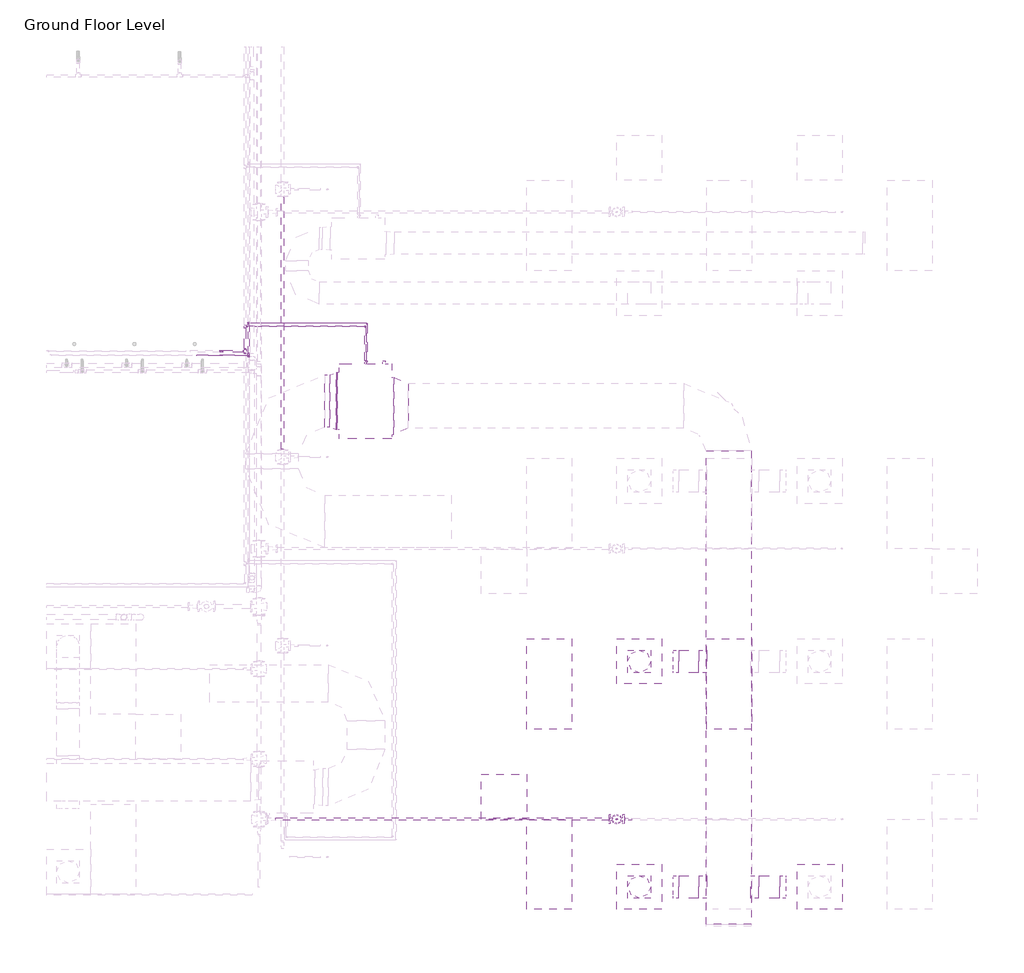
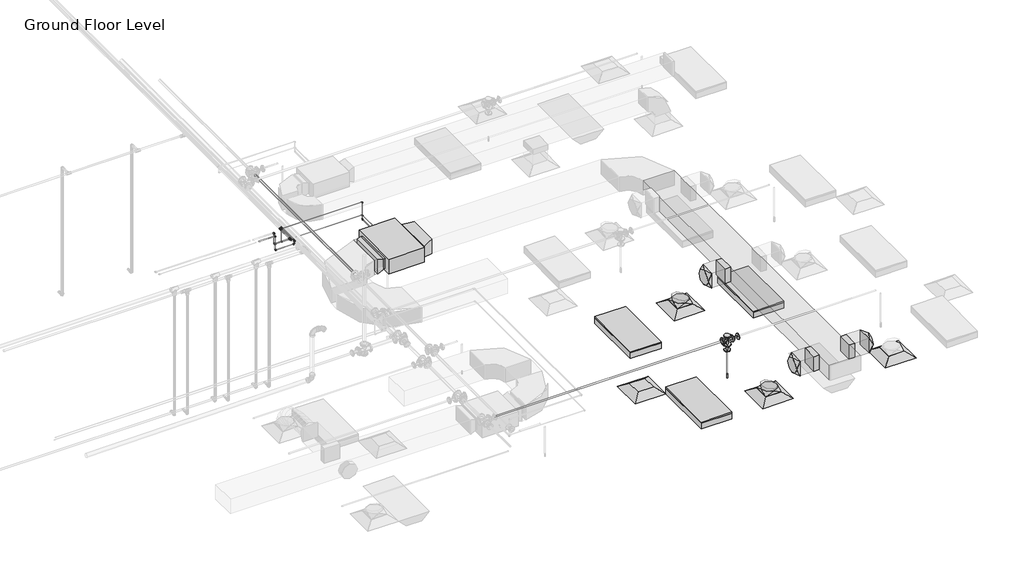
# One storey, part 18 of 74: 22 pipe fittings, 17 pipe segments, 10 duct fittings, 8 duct segments, 4 air terminals, 3 light fixtures, 1 fire suppression terminal, 1 proxy.
"""IFC4 building model written with IfcOpenShell, lengths in millimetres."""

from ifc_helpers import new_model, si_unit, point, frame, frame_2d, origin, place, context, project, spatial, polyline, circle_curve, ellipse_curve, trimmed, segment, composite_curve, outline, extrude, transform, mapped, element, save
from ifc_brep_helpers import plane_surface, cylinder_surface, advanced_brep
from components import m_return_diffuser_600_x_600_face_300_x_300_connection_ff221211, fcu_daikin_iu_7e1df382, m_rectangular_takeoff_standard_cb0ccb98, m_rectangular_takeoff_standard_2be5eba1, m_rectangular_transition_angle_45_degree_93a96896, m_rectangular_transition_angle_45_degree_f6cc18ae, m_rectangular_to_round_transition_angle_45_degree_641efff0, m_sprinkler_dry_pendent_hosted_15_mm_dry_pendent_9bda8e11, m_troffer_light_parabolic_rectangular1_0600x1200mm_4_lamp_86473d4a, m_elbow_generic_standard_a088f956, m_elbow_generic_standard_2a704253, m_elbow_generic_standard_73005802, m_elbow_generic_standard_bb5ffebe, m_reducer_flanged_cs_class_150_standard_ccf252ad, m_tee_generic_standard_5b2ed4d4, m_tee_generic_standard_cdc1cff5, m_tee_generic_standard_5078887e, m_tee_generic_standard_bbfc025c, m_tee_round_base_flanged_cs_class_150_standard_7e5987a1, m_transition_generic_standard_6dc712c0, m_transition_generic_standard_2351da66, m_transition_generic_standard_44e35838, m_transition_generic_standard_22c7c9f4, m_transition_generic_standard_2d362458

model = new_model("IFC4")

# Units and contexts
model_context = context("Model", 3, world=origin())
ifc_project = project(units=[si_unit("LENGTHUNIT", "METRE", prefix="MILLI")], contexts=[model_context])

# Site, building, storey
site = spatial("IfcSite", under=ifc_project)
building = spatial("IfcBuilding", under=site)
storey = spatial("IfcBuildingStorey", under=building, Name="Ground Floor Level", Elevation=900.0)

# Air terminals
placement = place(None, origin())
m_return_diffuser_600_x_600_face_300_x_300_connection_shape = m_return_diffuser_600_x_600_face_300_x_300_connection_ff221211(model_context)
element("IfcAirTerminal", 1, ObjectType="M_Return Diffuser : 600 x 600 Face 300 x 300 Connection", at=placement, inside=storey, context=model_context, shape_type="MappedRepresentation", body=[
    mapped(m_return_diffuser_600_x_600_face_300_x_300_connection_shape, transform((8943.0482736, -38564.7846466, 3650.0), x_axis=(1.0, 0.0, 0.0), y_axis=(0.0, 1.0, 0.0), z_axis=(0.0, 0.0, 1.0))),
])
element("IfcAirTerminal", 2, ObjectType="M_Supply Diffuser : 600 x 600 Face 300 x 300 Connection", at=placement, inside=storey, context=model_context, shape_type="MappedRepresentation", body=[
    mapped(m_return_diffuser_600_x_600_face_300_x_300_connection_shape, transform((10742.7672395, -39764.7846466, 3650.0), x_axis=(1.0, 0.0, 0.0), y_axis=(0.0, 1.0, 0.0), z_axis=(0.0, 0.0, 1.0))),
])
element("IfcAirTerminal", 3, ObjectType="M_Supply Diffuser : 600 x 600 Face 300 x 300 Connection", at=placement, inside=storey, context=model_context, shape_type="MappedRepresentation", body=[
    mapped(m_return_diffuser_600_x_600_face_300_x_300_connection_shape, transform((13142.7672395, -39764.7846466, 3650.0), x_axis=(1.0, 0.0, 0.0), y_axis=(0.0, 1.0, 0.0), z_axis=(0.0, 0.0, 1.0))),
])
element("IfcAirTerminal", 4, ObjectType="M_Supply Diffuser : 600 x 600 Face 300 x 300 Connection", at=placement, inside=storey, context=model_context, shape_type="MappedRepresentation", body=[
    mapped(m_return_diffuser_600_x_600_face_300_x_300_connection_shape, transform((10742.7672395, -36764.7846466, 3650.0), x_axis=(1.0, 0.0, 0.0), y_axis=(0.0, 1.0, 0.0), z_axis=(0.0, 0.0, 1.0))),
])

# Proxy
fcu_daikin_iu_shape = fcu_daikin_iu_7e1df382(model_context)
element("IfcBuildingElementProxy", 5, Name="FCU-DAIKIN IU : 7.2kW, 230V/50Hz/1Ph", ObjectType="FCU-DAIKIN IU : 7.2kW, 230V/50Hz/1Ph", at=placement, inside=storey, context=model_context, shape_type="MappedRepresentation", body=[
    mapped(fcu_daikin_iu_shape, transform((7098.4644074, -33301.2726336, 3934.0875), x_axis=(0.0, 1.0, 0.0), y_axis=(-1.0, 0.0, 0.0), z_axis=(0.0, 0.0, 1.0))),
])

# Duct fittings
m_rectangular_takeoff_standard_shape = m_rectangular_takeoff_standard_cb0ccb98(model_context)
element("IfcDuctFitting", 6, ObjectType="M_Rectangular Takeoff : Standard", at=placement, inside=storey, context=model_context, shape_type="MappedRepresentation", body=[
    mapped(m_rectangular_takeoff_standard_shape, transform((12233.8644074, -39764.7846466, 4099.9875), x_axis=(1.0, 0.0, 0.0), y_axis=(0.0, -1.0, 0.0), z_axis=(0.0, 0.0, -1.0))),
])
m_rectangular_takeoff_standard_2_shape = m_rectangular_takeoff_standard_2be5eba1(model_context)
element("IfcDuctFitting", 7, ObjectType="M_Rectangular Takeoff : Standard", at=placement, inside=storey, context=model_context, shape_type="MappedRepresentation", body=[
    mapped(m_rectangular_takeoff_standard_2_shape, transform((11633.8644074, -36764.7846466, 4099.9875), x_axis=(-1.0, 0.0, 0.0), y_axis=(0.0, 1.0, 0.0), z_axis=(0.0, 0.0, -1.0))),
])
element("IfcDuctFitting", 8, ObjectType="M_Rectangular Takeoff : Standard", at=placement, inside=storey, context=model_context, shape_type="MappedRepresentation", body=[
    mapped(m_rectangular_takeoff_standard_2_shape, transform((11633.8644074, -39764.7846466, 4099.9875), x_axis=(-1.0, 0.0, 0.0), y_axis=(0.0, 1.0, 0.0), z_axis=(0.0, 0.0, -1.0))),
])
m_rectangular_transition_angle_45_degree_shape = m_rectangular_transition_angle_45_degree_93a96896(model_context)
element("IfcDuctFitting", 9, ObjectType="M_Rectangular Transition - Angle : 45 Degree", at=placement, inside=storey, context=model_context, shape_type="MappedRepresentation", body=[
    mapped(m_rectangular_transition_angle_45_degree_shape, transform((7473.8644074, -33364.7726336, 4100.0), x_axis=(1.0, 0.0, 0.0), y_axis=(0.0, 1.0, 0.0), z_axis=(0.0, 0.0, 1.0))),
])
m_rectangular_transition_angle_45_degree_2_shape = m_rectangular_transition_angle_45_degree_f6cc18ae(model_context)
element("IfcDuctFitting", 10, ObjectType="M_Rectangular Transition - Angle : 45 Degree", at=placement, inside=storey, context=model_context, shape_type="MappedRepresentation", body=[
    mapped(m_rectangular_transition_angle_45_degree_2_shape, transform((6711.4162578, -33301.2726336, 4075.2908943), x_axis=(-0.9999999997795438, 0.0, 2.0997916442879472e-05), y_axis=(0.0, -1.0, 0.0), z_axis=(2.0997916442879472e-05, 0.0, 0.9999999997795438))),
])
m_rectangular_to_round_transition_angle_45_degree_shape = m_rectangular_to_round_transition_angle_45_degree_641efff0(model_context)
element("IfcDuctFitting", 11, ObjectType="M_Rectangular to Round Transition - Angle : 45 Degree", at=placement, inside=storey, context=model_context, shape_type="MappedRepresentation", body=[
    mapped(m_rectangular_to_round_transition_angle_45_degree_shape, transform((10742.7672395, -36764.7846466, 3751.6), x_axis=(0.0, 0.0, 1.0), y_axis=(-1.0, 0.0, 0.0), z_axis=(0.0, -1.0, 0.0))),
])
element("IfcDuctFitting", 12, ObjectType="M_Rectangular to Round Transition - Angle : 45 Degree", at=placement, inside=storey, context=model_context, shape_type="MappedRepresentation", body=[
    mapped(m_rectangular_to_round_transition_angle_45_degree_shape, transform((11270.1156708, -36764.7846466, 4099.9875), x_axis=(-1.0, 0.0, 0.0), y_axis=(0.0, -1.0, 0.0), z_axis=(0.0, 0.0, 1.0))),
])
element("IfcDuctFitting", 13, ObjectType="M_Rectangular to Round Transition - Angle : 45 Degree", at=placement, inside=storey, context=model_context, shape_type="MappedRepresentation", body=[
    mapped(m_rectangular_to_round_transition_angle_45_degree_shape, transform((10742.7672395, -39764.7846466, 3751.6), x_axis=(0.0, 0.0, 1.0), y_axis=(-1.0, 0.0, 0.0), z_axis=(0.0, -1.0, 0.0))),
])
element("IfcDuctFitting", 14, ObjectType="M_Rectangular to Round Transition - Angle : 45 Degree", at=placement, inside=storey, context=model_context, shape_type="MappedRepresentation", body=[
    mapped(m_rectangular_to_round_transition_angle_45_degree_shape, transform((11270.1156708, -39764.7846466, 4099.9875), x_axis=(-1.0, 0.0, 0.0), y_axis=(0.0, -1.0, 0.0), z_axis=(0.0, 0.0, 1.0))),
])
element("IfcDuctFitting", 15, ObjectType="M_Rectangular to Round Transition - Angle : 45 Degree", at=placement, inside=storey, context=model_context, shape_type="MappedRepresentation", body=[
    mapped(m_rectangular_to_round_transition_angle_45_degree_shape, transform((12615.4188082, -39764.7846466, 4099.9875), x_axis=(1.0, 0.0, 0.0), y_axis=(0.0, 1.0, 0.0), z_axis=(0.0, 0.0, 1.0))),
])

# Duct segments
element("IfcDuctSegment", 16, ObjectType="Flex - Round", at=placement, inside=storey, context=model_context, shape_type="AdvancedBrep", body=[
    advanced_brep(
    [(10892.7672395, -36764.7846466, 3826.6), (10742.7672395, -36914.7846466, 3826.6), (10592.7672395, -36764.7846466, 3826.6), (10742.7672395, -36614.7846466, 3826.6), (10892.7672395, -36764.7846466, 3829.8098344), (10742.7672395, -36614.7846466, 3864.5152119), (10592.7672395, -36764.7846466, 3899.2205895), (10742.7672395, -36914.7846466, 3864.5152119)],
    [
        (0, 1, circle_curve(frame((10742.7672395, -36764.7846466, 3826.6), z_axis=(0.0, 0.0, -1.0), x_axis=(1.0, 0.0, 0.0)), 150.0)),
        (1, 2, circle_curve(frame((10742.7672395, -36764.7846466, 3826.6), z_axis=(0.0, 0.0, -1.0), x_axis=(1.0, 0.0, 0.0)), 150.0)),
        (2, 3, circle_curve(frame((10742.7672395, -36764.7846466, 3826.6), z_axis=(0.0, 0.0, -1.0), x_axis=(1.0, 0.0, 0.0)), 150.0)),
        (3, 0, circle_curve(frame((10742.7672395, -36764.7846466, 3826.6), z_axis=(0.0, 0.0, -1.0), x_axis=(1.0, 0.0, 0.0)), 150.0)),
        (4, 5, ellipse_curve(frame((10742.7672395, -36764.7846466, 3864.5152119), z_axis=(0.22541442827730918, 0.0, 0.9742629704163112), x_axis=(0.9742629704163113, 0.0, -0.2254144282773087)), 153.9625384, 150.0)),
        (5, 6, ellipse_curve(frame((10742.7672395, -36764.7846466, 3864.5152119), z_axis=(0.22541442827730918, 0.0, 0.9742629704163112), x_axis=(0.9742629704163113, 0.0, -0.2254144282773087)), 153.9625384, 150.0)),
        (6, 7, ellipse_curve(frame((10742.7672395, -36764.7846466, 3864.5152119), z_axis=(0.22541442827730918, 0.0, 0.9742629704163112), x_axis=(0.9742629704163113, 0.0, -0.2254144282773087)), 153.9625384, 150.0)),
        (7, 4, ellipse_curve(frame((10742.7672395, -36764.7846466, 3864.5152119), z_axis=(0.22541442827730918, 0.0, 0.9742629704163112), x_axis=(0.9742629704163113, 0.0, -0.2254144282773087)), 153.9625384, 150.0)),
        (0, 4),
        (7, 1),
        (6, 2),
        (5, 3),
    ],
    [
        plane_surface(frame((10742.7672395, -36914.7846466, 3826.6), z_axis=(0.0, 0.0, -1.0), x_axis=(1.0, 0.0, 0.0))),
        plane_surface(frame((10742.7672395, -36914.7846466, 3864.5152119), z_axis=(0.22541442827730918, 0.0, 0.9742629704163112), x_axis=(0.9742629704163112, 0.0, -0.22541442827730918))),
        cylinder_surface(frame((10742.7672395, -36764.7846466, 3826.6), z_axis=(0.0, 0.0, -1.0), x_axis=(1.0, 0.0, 0.0)), 150.0),
    ],
    [
        (0, [[1, 2, 3, 4]]),
        (1, [[5, 6, 7, 8]]),
        (2, [[-1, 9, -8, 10]]),
        (2, [[-2, -10, -7, 11]]),
        (2, [[-3, -11, -6, 12]]),
        (2, [[-4, -12, -5, -9]]),
    ],
),
])
element("IfcDuctSegment", 17, ObjectType="Flex - Round", at=placement, inside=storey, context=model_context, shape_type="AdvancedBrep", body=[
    advanced_brep(
    [(10892.7672395, -39764.7846466, 3826.6), (10742.7672395, -39914.7846466, 3826.6), (10592.7672395, -39764.7846466, 3826.6), (10742.7672395, -39614.7846466, 3826.6), (10892.7672395, -39764.7846466, 3829.8098344), (10742.7672395, -39614.7846466, 3864.5152119), (10592.7672395, -39764.7846466, 3899.2205895), (10742.7672395, -39914.7846466, 3864.5152119)],
    [
        (0, 1, circle_curve(frame((10742.7672395, -39764.7846466, 3826.6), z_axis=(0.0, 0.0, -1.0), x_axis=(1.0, 0.0, 0.0)), 150.0)),
        (1, 2, circle_curve(frame((10742.7672395, -39764.7846466, 3826.6), z_axis=(0.0, 0.0, -1.0), x_axis=(1.0, 0.0, 0.0)), 150.0)),
        (2, 3, circle_curve(frame((10742.7672395, -39764.7846466, 3826.6), z_axis=(0.0, 0.0, -1.0), x_axis=(1.0, 0.0, 0.0)), 150.0)),
        (3, 0, circle_curve(frame((10742.7672395, -39764.7846466, 3826.6), z_axis=(0.0, 0.0, -1.0), x_axis=(1.0, 0.0, 0.0)), 150.0)),
        (4, 5, ellipse_curve(frame((10742.7672395, -39764.7846466, 3864.5152119), z_axis=(0.22541442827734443, 0.0, 0.9742629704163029), x_axis=(0.9742629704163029, 0.0, -0.22541442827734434)), 153.9625384, 150.0)),
        (5, 6, ellipse_curve(frame((10742.7672395, -39764.7846466, 3864.5152119), z_axis=(0.22541442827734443, 0.0, 0.9742629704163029), x_axis=(0.9742629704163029, 0.0, -0.22541442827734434)), 153.9625384, 150.0)),
        (6, 7, ellipse_curve(frame((10742.7672395, -39764.7846466, 3864.5152119), z_axis=(0.22541442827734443, 0.0, 0.9742629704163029), x_axis=(0.9742629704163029, 0.0, -0.22541442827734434)), 153.9625384, 150.0)),
        (7, 4, ellipse_curve(frame((10742.7672395, -39764.7846466, 3864.5152119), z_axis=(0.22541442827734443, 0.0, 0.9742629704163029), x_axis=(0.9742629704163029, 0.0, -0.22541442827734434)), 153.9625384, 150.0)),
        (0, 4),
        (7, 1),
        (6, 2),
        (5, 3),
    ],
    [
        plane_surface(frame((10742.7672395, -39914.7846466, 3826.6), z_axis=(0.0, 0.0, -1.0), x_axis=(1.0, 0.0, 0.0))),
        plane_surface(frame((10742.7672395, -39914.7846466, 3864.5152119), z_axis=(0.22541442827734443, 0.0, 0.9742629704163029), x_axis=(0.9742629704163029, 0.0, -0.22541442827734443))),
        cylinder_surface(frame((10742.7672395, -39764.7846466, 3826.6), z_axis=(0.0, 0.0, -1.0), x_axis=(1.0, 0.0, 0.0)), 150.0),
    ],
    [
        (0, [[1, 2, 3, 4]]),
        (1, [[5, 6, 7, 8]]),
        (2, [[-1, 9, -8, 10]]),
        (2, [[-2, -10, -7, 11]]),
        (2, [[-3, -11, -6, 12]]),
        (2, [[-4, -12, -5, -9]]),
    ],
),
])
element("IfcDuctSegment", 18, ObjectType="Radius Elbows / Taps", at=placement, inside=storey, context=model_context, shape_type="SweptSolid", body=[
    extrude(outline(polyline([(11633.8644074, -33964.7726336), (12233.8644074, -33964.7726336), (12233.8644074, -40264.7726336), (11633.8644074, -40264.7726336), (11633.8644074, -33964.7726336)])), frame((0.0, 0.0, 3949.9875), z_axis=(0.0, 0.0, 1.0), x_axis=(1.0, 0.0, 0.0)), (0.0, 0.0, 1.0), 300.0),
])
element("IfcDuctSegment", 19, ObjectType="Radius Elbows / Taps", at=placement, inside=storey, context=model_context, shape_type="SweptSolid", body=[
    extrude(outline(polyline([(11532.2644074, -36614.7846466), (11532.2644074, -36914.7846466), (11270.1156708, -36914.7846466), (11270.1156708, -36614.7846466), (11532.2644074, -36614.7846466)])), frame((0.0, 0.0, 3949.9875), z_axis=(0.0, 0.0, 1.0), x_axis=(1.0, 0.0, 0.0)), (0.0, 0.0, 1.0), 300.0),
])
element("IfcDuctSegment", 20, ObjectType="Radius Elbows / Taps", at=placement, inside=storey, context=model_context, shape_type="SweptSolid", body=[
    extrude(outline(polyline([(11532.2644074, -39614.7846466), (11532.2644074, -39914.7846466), (11270.1156708, -39914.7846466), (11270.1156708, -39614.7846466), (11532.2644074, -39614.7846466)])), frame((0.0, 0.0, 3949.9875), z_axis=(0.0, 0.0, 1.0), x_axis=(1.0, 0.0, 0.0)), (0.0, 0.0, 1.0), 300.0),
])
element("IfcDuctSegment", 21, ObjectType="Radius Elbows / Taps", at=placement, inside=storey, context=model_context, shape_type="SweptSolid", body=[
    extrude(outline(polyline([(12335.4644074, -39914.7846466), (12335.4644074, -39614.7846466), (12615.4188082, -39614.7846466), (12615.4188082, -39914.7846466), (12335.4644074, -39914.7846466)])), frame((0.0, 0.0, 3949.9875), z_axis=(0.0, 0.0, 1.0), x_axis=(1.0, 0.0, 0.0)), (0.0, 0.0, 1.0), 300.0),
])
element("IfcDuctSegment", 22, ObjectType="Radius Elbows / Taps", at=placement, inside=storey, context=model_context, shape_type="SweptSolid", body=[
    extrude(outline(polyline([(0.0, -761.875), (0.0, 0.0), (11.6481501, 0.0), (11.6481501, -761.875), (0.0, -761.875)])), frame((6711.3850343, -32920.3351336, 3968.1408988), z_axis=(0.00029140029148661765, 0.0, 0.9999999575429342), x_axis=(0.9999999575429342, 0.0, -0.00029140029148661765)), (0.0, 0.0, 1.0), 214.3),
])
element("IfcDuctSegment", 23, ObjectType="Radius Elbows / Taps", at=placement, inside=storey, context=model_context, shape_type="SweptSolid", body=[
    extrude(outline(polyline([(6557.7672394, -33651.2726336), (6557.7672394, -32951.2726336), (6625.7187526, -32951.2726336), (6625.7187526, -33651.2726336), (6557.7672394, -33651.2726336)])), frame((0.0, 0.0, 3882.4375), z_axis=(0.0, 0.0, 1.0), x_axis=(1.0, 0.0, 0.0)), (0.0, 0.0, 1.0), 300.0),
])

# Fire suppression terminal
m_sprinkler_dry_pendent_hosted_15_mm_dry_pendent_shape = m_sprinkler_dry_pendent_hosted_15_mm_dry_pendent_9bda8e11(model_context)
element("IfcFireSuppressionTerminal", 24, ObjectType="M_Sprinkler - Dry - Pendent - Hosted : 15 mm Dry Pendent", at=placement, inside=storey, context=model_context, shape_type="MappedRepresentation", body=[
    mapped(m_sprinkler_dry_pendent_hosted_15_mm_dry_pendent_shape, transform((10443.0482736, -38864.7846466, 3650.0), x_axis=(1.0, 0.0, 0.0), y_axis=(0.0, -1.0, 0.0), z_axis=(0.0, 0.0, -1.0))),
])

# Light fixtures
m_troffer_light_parabolic_rectangular1_0600x1200mm_4_lamp_shape = m_troffer_light_parabolic_rectangular1_0600x1200mm_4_lamp_86473d4a(model_context)
element("IfcLightFixture", 25, ObjectType="M_Troffer Light - Parabolic Rectangular1 : 0600x1200mm(4 Lamp) - 277V 2", at=placement, inside=storey, context=model_context, shape_type="MappedRepresentation", body=[
    mapped(m_troffer_light_parabolic_rectangular1_0600x1200mm_4_lamp_shape, transform((9483.5823415, -37046.0811451, 3650.0), x_axis=(0.0, 1.0, 0.0), y_axis=(-1.0, 0.0, 0.0), z_axis=(0.0, 0.0, 1.0))),
])
element("IfcLightFixture", 26, ObjectType="M_Troffer Light - Parabolic Rectangular1 : 0600x1200mm(4 Lamp) - 277V 2", at=placement, inside=storey, context=model_context, shape_type="MappedRepresentation", body=[
    mapped(m_troffer_light_parabolic_rectangular1_0600x1200mm_4_lamp_shape, transform((9483.5823415, -39446.0811451, 3650.0), x_axis=(0.0, 1.0, 0.0), y_axis=(-1.0, 0.0, 0.0), z_axis=(0.0, 0.0, 1.0))),
])
element("IfcLightFixture", 27, ObjectType="M_Troffer Light - Parabolic Rectangular1 : 0600x1200mm(4 Lamp) - 277V 2", at=placement, inside=storey, context=model_context, shape_type="MappedRepresentation", body=[
    mapped(m_troffer_light_parabolic_rectangular1_0600x1200mm_4_lamp_shape, transform((11883.5823415, -37046.0811451, 3650.0), x_axis=(0.0, 1.0, 0.0), y_axis=(-1.0, 0.0, 0.0), z_axis=(0.0, 0.0, 1.0))),
])

# Pipe fittings
m_elbow_generic_standard_shape = m_elbow_generic_standard_a088f956(model_context)
element("IfcPipeFitting", 28, ObjectType="M_Elbow - Generic : Standard", at=placement, inside=storey, context=model_context, shape_type="MappedRepresentation", body=[
    mapped(m_elbow_generic_standard_shape, transform((7098.4644074, -32307.4513653, 4390.0), x_axis=(1.0, 0.0, 0.0), y_axis=(0.0, 0.0, -1.0), z_axis=(0.0, 1.0, 0.0))),
])
element("IfcPipeFitting", 29, ObjectType="M_Elbow - Generic : Standard", at=placement, inside=storey, context=model_context, shape_type="MappedRepresentation", body=[
    mapped(m_elbow_generic_standard_shape, transform((7098.4644074, -32307.4513653, 4034.0875), x_axis=(0.0, 0.0, -1.0), y_axis=(0.0, -1.0, 0.0), z_axis=(-1.0, 0.0, 0.0))),
])
m_elbow_generic_standard_2_shape = m_elbow_generic_standard_2a704253(model_context)
element("IfcPipeFitting", 30, ObjectType="M_Elbow - Generic : Standard", at=placement, inside=storey, context=model_context, shape_type="MappedRepresentation", body=[
    mapped(m_elbow_generic_standard_2_shape, transform((7123.4644074, -32264.9316535, 4084.8875), x_axis=(0.0, 1.0, 0.0), y_axis=(-0.9999999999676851, 0.0, 8.039269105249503e-06), z_axis=(8.039269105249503e-06, 0.0, 0.9999999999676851))),
])
element("IfcPipeFitting", 31, ObjectType="M_Elbow - Generic : Standard", at=placement, inside=storey, context=model_context, shape_type="MappedRepresentation", body=[
    mapped(m_elbow_generic_standard_2_shape, transform((5543.9904113, -32264.9316538, 4084.9001978), x_axis=(0.0, 0.0, -1.0), y_axis=(1.0, 0.0, 0.0), z_axis=(0.0, -1.0, 0.0))),
])
m_elbow_generic_standard_3_shape = m_elbow_generic_standard_73005802(model_context)
element("IfcPipeFitting", 32, ObjectType="M_Elbow - Generic : Standard", at=placement, inside=storey, context=model_context, shape_type="MappedRepresentation", body=[
    mapped(m_elbow_generic_standard_3_shape, transform((5183.4438829, -32638.716218, 4390.0), x_axis=(-1.0, 0.0, 0.0), y_axis=(0.0, 0.0, 1.0), z_axis=(0.0, 1.0, 0.0))),
])
element("IfcPipeFitting", 33, ObjectType="M_Elbow - Generic : Standard", at=placement, inside=storey, context=model_context, shape_type="MappedRepresentation", body=[
    mapped(m_elbow_generic_standard_3_shape, transform((5183.4438829, -32638.716218, 4621.4908765), x_axis=(0.0, 0.0, 1.0), y_axis=(-1.0, 0.0, 0.0), z_axis=(0.0, -1.0, 0.0))),
])
m_elbow_generic_standard_4_shape = m_elbow_generic_standard_bb5ffebe(model_context)
element("IfcPipeFitting", 34, ObjectType="M_Elbow - Generic : Standard", at=placement, inside=storey, context=model_context, shape_type="MappedRepresentation", body=[
    mapped(m_elbow_generic_standard_4_shape, transform((5176.1749541, -32691.5527522, 4591.0863665), x_axis=(0.0, 0.0, 1.0), y_axis=(-1.0, 0.0, 0.0), z_axis=(0.0, -1.0, 0.0))),
])
element("IfcPipeFitting", 35, ObjectType="M_Elbow - Generic : Standard", at=placement, inside=storey, context=model_context, shape_type="MappedRepresentation", body=[
    mapped(m_elbow_generic_standard_4_shape, transform((5543.9904113, -32691.5527522, 4300.0), x_axis=(0.0, 0.0, -1.0), y_axis=(-1.0, 0.0, 0.0), z_axis=(0.0, 1.0, 0.0))),
])
element("IfcPipeFitting", 36, ObjectType="M_Elbow - Generic : Standard", at=placement, inside=storey, context=model_context, shape_type="MappedRepresentation", body=[
    mapped(m_elbow_generic_standard_4_shape, transform((5176.1749541, -32691.5527522, 4300.0), x_axis=(0.0, 0.0, -1.0), y_axis=(1.0, 0.0, 0.0), z_axis=(0.0, -1.0, 0.0))),
])
m_reducer_flanged_cs_class_150_standard_shape = m_reducer_flanged_cs_class_150_standard_ccf252ad(model_context)
element("IfcPipeFitting", 37, ObjectType="M_Reducer - Flanged - CS - Class 150 : Standard", at=placement, inside=storey, context=model_context, shape_type="MappedRepresentation", body=[
    mapped(m_reducer_flanged_cs_class_150_standard_shape, transform((10543.7568674, -38864.7846466, 4347.5), x_axis=(1.0, 0.0, 0.0), y_axis=(0.0, 0.0, 1.0), z_axis=(0.0, -1.0, 0.0))),
])
element("IfcPipeFitting", 38, ObjectType="M_Reducer - Flanged - CS - Class 150 : Standard", at=placement, inside=storey, context=model_context, shape_type="MappedRepresentation", body=[
    mapped(m_reducer_flanged_cs_class_150_standard_shape, transform((10443.0482736, -38864.7846466, 4246.7914062), x_axis=(0.0, 0.0, -1.0), y_axis=(-1.0, 0.0, 0.0), z_axis=(0.0, 1.0, 0.0))),
])
m_tee_generic_standard_shape = m_tee_generic_standard_5b2ed4d4(model_context)
element("IfcPipeFitting", 39, ObjectType="M_Tee - Generic : Standard", at=placement, inside=storey, context=model_context, shape_type="MappedRepresentation", body=[
    mapped(m_tee_generic_standard_shape, transform((5543.9904113, -32264.9316538, 4377.5), x_axis=(0.0, -1.0, 0.0), y_axis=(0.0, 0.0, 1.0), z_axis=(-1.0, 0.0, 0.0))),
])
m_tee_generic_standard_2_shape = m_tee_generic_standard_cdc1cff5(model_context)
element("IfcPipeFitting", 40, ObjectType="M_Tee - Generic : Standard", at=placement, inside=storey, context=model_context, shape_type="MappedRepresentation", body=[
    mapped(m_tee_generic_standard_2_shape, transform((5543.9904113, -32691.5527522, 4377.5), x_axis=(0.0, -1.0, 0.0), y_axis=(0.0, 0.0, 1.0), z_axis=(-1.0, 0.0, 0.0))),
])
m_tee_generic_standard_3_shape = m_tee_generic_standard_5078887e(model_context)
element("IfcPipeFitting", 41, ObjectType="M_Tee - Generic : Standard", at=placement, inside=storey, context=model_context, shape_type="MappedRepresentation", body=[
    mapped(m_tee_generic_standard_3_shape, transform((5497.8951827, -32307.4513653, 4390.0), x_axis=(0.0, -1.0, 0.0), y_axis=(-1.0, 0.0, 0.0), z_axis=(0.0, 0.0, -1.0))),
])
m_tee_generic_standard_4_shape = m_tee_generic_standard_bbfc025c(model_context)
element("IfcPipeFitting", 42, ObjectType="M_Tee - Generic : Standard", at=placement, inside=storey, context=model_context, shape_type="MappedRepresentation", body=[
    mapped(m_tee_generic_standard_4_shape, transform((5497.8951827, -32638.716218, 4390.0), x_axis=(0.0, -1.0, 0.0), y_axis=(1.0, 0.0, 0.0), z_axis=(0.0, 0.0, 1.0))),
])
m_tee_round_base_flanged_cs_class_150_standard_shape = m_tee_round_base_flanged_cs_class_150_standard_7e5987a1(model_context)
element("IfcPipeFitting", 43, ObjectType="M_Tee Round Base - Flanged - CS - Class 150 : Standard", at=placement, inside=storey, context=model_context, shape_type="MappedRepresentation", body=[
    mapped(m_tee_round_base_flanged_cs_class_150_standard_shape, transform((10443.0482736, -38864.7846466, 4347.5), x_axis=(1.0, 0.0, 0.0), y_axis=(0.0, 0.0, 1.0), z_axis=(0.0, -1.0, 0.0))),
])
m_transition_generic_standard_shape = m_transition_generic_standard_6dc712c0(model_context)
element("IfcPipeFitting", 44, ObjectType="M_Transition - Generic : Standard", at=placement, inside=storey, context=model_context, shape_type="MappedRepresentation", body=[
    mapped(m_transition_generic_standard_shape, transform((5543.9904113, -32669.3277522, 4377.5), x_axis=(0.0, 1.0, 0.0), y_axis=(-1.0, 0.0, 0.0), z_axis=(0.0, 0.0, 1.0))),
])
element("IfcPipeFitting", 45, ObjectType="M_Transition - Generic : Standard", at=placement, inside=storey, context=model_context, shape_type="MappedRepresentation", body=[
    mapped(m_transition_generic_standard_shape, transform((5543.9904113, -32713.7777522, 4377.5), x_axis=(0.0, -1.0, 0.0), y_axis=(1.0, 0.0, 0.0), z_axis=(0.0, 0.0, 1.0))),
])
m_transition_generic_standard_2_shape = m_transition_generic_standard_2351da66(model_context)
element("IfcPipeFitting", 46, ObjectType="M_Transition - Generic : Standard", at=placement, inside=storey, context=model_context, shape_type="MappedRepresentation", body=[
    mapped(m_transition_generic_standard_2_shape, transform((5497.8951827, -32613.316218, 4390.0), x_axis=(0.0, 1.0, 0.0), y_axis=(-1.0, 0.0, 0.0), z_axis=(0.0, 0.0, 1.0))),
])
m_transition_generic_standard_3_shape = m_transition_generic_standard_44e35838(model_context)
element("IfcPipeFitting", 47, ObjectType="M_Transition - Generic : Standard", at=placement, inside=storey, context=model_context, shape_type="MappedRepresentation", body=[
    mapped(m_transition_generic_standard_3_shape, transform((5521.7076827, -32307.4513653, 4390.0), x_axis=(1.0, 0.0, 0.0), y_axis=(0.0, 1.0, 0.0), z_axis=(0.0, 0.0, 1.0))),
])
m_transition_generic_standard_4_shape = m_transition_generic_standard_22c7c9f4(model_context)
element("IfcPipeFitting", 48, ObjectType="M_Transition - Generic : Standard", at=placement, inside=storey, context=model_context, shape_type="MappedRepresentation", body=[
    mapped(m_transition_generic_standard_4_shape, transform((5497.8951827, -32664.116218, 4390.0), x_axis=(0.0, -1.0, 0.0), y_axis=(1.0, 0.0, 0.0), z_axis=(0.0, 0.0, 1.0))),
])
m_transition_generic_standard_5_shape = m_transition_generic_standard_2d362458(model_context)
element("IfcPipeFitting", 49, ObjectType="M_Transition - Generic : Standard", at=placement, inside=storey, context=model_context, shape_type="MappedRepresentation", body=[
    mapped(m_transition_generic_standard_5_shape, transform((5543.9904113, -32264.9316538, 4356.8625), x_axis=(0.0, 0.0, -1.0), y_axis=(1.0, 0.0, 0.0), z_axis=(0.0, -1.0, 0.0))),
])

# Pipe segments
element("IfcPipeSegment", 50, ObjectType="Copper", at=placement, inside=storey, context=model_context, shape_type="SweptSolid", body=[
    extrude(outline(composite_curve([segment(trimmed(circle_curve(frame_2d((-32638.716218, 4390.0)), 11.5), [point((-32650.216218, 4390.0))], [point((-32638.716218, 4401.5))], False, "CARTESIAN"), True, "CONTINUOUS"), segment(trimmed(circle_curve(frame_2d((-32638.716218, 4390.0)), 11.5), [point((-32638.716218, 4401.5))], [point((-32627.216218, 4390.0))], False, "CARTESIAN"), True, "CONTINUOUS"), segment(trimmed(circle_curve(frame_2d((-32638.716218, 4390.0)), 11.5), [point((-32627.216218, 4390.0))], [point((-32638.716218, 4378.5))], False, "CARTESIAN"), True, "CONTINUOUS"), segment(trimmed(circle_curve(frame_2d((-32638.716218, 4390.0)), 11.5), [point((-32638.716218, 4378.5))], [point((-32650.216218, 4390.0))], False, "CARTESIAN"), True, "CONTINUOUS")], self_intersect=False)), frame((5202.4938829, 0.0, 0.0), z_axis=(1.0, 0.0, 0.0), x_axis=(0.0, 1.0, 0.0)), (0.0, 0.0, 1.0), 270.0012998),
])
element("IfcPipeSegment", 51, ObjectType="Copper", at=placement, inside=storey, context=model_context, shape_type="SweptSolid", body=[
    extrude(outline(composite_curve([segment(trimmed(circle_curve(frame_2d((5176.1749541, -32691.5527522)), 8.1), [point((5168.0749541, -32691.5527522))], [point((5176.1749541, -32683.4527522))], False, "CARTESIAN"), True, "CONTINUOUS"), segment(trimmed(circle_curve(frame_2d((5176.1749541, -32691.5527522)), 8.1), [point((5176.1749541, -32683.4527522))], [point((5184.2749541, -32691.5527522))], False, "CARTESIAN"), True, "CONTINUOUS"), segment(trimmed(circle_curve(frame_2d((5176.1749541, -32691.5527522)), 8.1), [point((5184.2749541, -32691.5527522))], [point((5176.1749541, -32699.6527522))], False, "CARTESIAN"), True, "CONTINUOUS"), segment(trimmed(circle_curve(frame_2d((5176.1749541, -32691.5527522)), 8.1), [point((5176.1749541, -32699.6527522))], [point((5168.0749541, -32691.5527522))], False, "CARTESIAN"), True, "CONTINUOUS")], self_intersect=False)), frame((0.0, 0.0, 4315.875), z_axis=(0.0, 0.0, 1.0), x_axis=(1.0, 0.0, 0.0)), (0.0, 0.0, 1.0), 259.3363665),
])
element("IfcPipeSegment", 52, ObjectType="Copper", at=placement, inside=storey, context=model_context, shape_type="SweptSolid", body=[
    extrude(outline(composite_curve([segment(trimmed(circle_curve(frame_2d((5183.4438829, -32638.716218)), 11.5), [point((5171.9438829, -32638.716218))], [point((5183.4438829, -32627.216218))], False, "CARTESIAN"), True, "CONTINUOUS"), segment(trimmed(circle_curve(frame_2d((5183.4438829, -32638.716218)), 11.5), [point((5183.4438829, -32627.216218))], [point((5194.9438829, -32638.716218))], False, "CARTESIAN"), True, "CONTINUOUS"), segment(trimmed(circle_curve(frame_2d((5183.4438829, -32638.716218)), 11.5), [point((5194.9438829, -32638.716218))], [point((5183.4438829, -32650.216218))], False, "CARTESIAN"), True, "CONTINUOUS"), segment(trimmed(circle_curve(frame_2d((5183.4438829, -32638.716218)), 11.5), [point((5183.4438829, -32650.216218))], [point((5171.9438829, -32638.716218))], False, "CARTESIAN"), True, "CONTINUOUS")], self_intersect=False)), frame((0.0, 0.0, 4409.05), z_axis=(0.0, 0.0, 1.0), x_axis=(1.0, 0.0, 0.0)), (0.0, 0.0, 1.0), 193.3908765),
])
element("IfcPipeSegment", 53, ObjectType="Copper", at=placement, inside=storey, context=model_context, shape_type="SweptSolid", body=[
    extrude(outline(composite_curve([segment(trimmed(circle_curve(frame_2d((-32307.4513653, 4390.0)), 6.5), [point((-32313.9513653, 4390.0))], [point((-32307.4513653, 4396.5))], False, "CARTESIAN"), True, "CONTINUOUS"), segment(trimmed(circle_curve(frame_2d((-32307.4513653, 4390.0)), 6.5), [point((-32307.4513653, 4396.5))], [point((-32300.9513653, 4390.0))], False, "CARTESIAN"), True, "CONTINUOUS"), segment(trimmed(circle_curve(frame_2d((-32307.4513653, 4390.0)), 6.5), [point((-32300.9513653, 4390.0))], [point((-32307.4513653, 4383.5))], False, "CARTESIAN"), True, "CONTINUOUS"), segment(trimmed(circle_curve(frame_2d((-32307.4513653, 4390.0)), 6.5), [point((-32307.4513653, 4383.5))], [point((-32313.9513653, 4390.0))], False, "CARTESIAN"), True, "CONTINUOUS")], self_intersect=False)), frame((5527.2639327, 0.0, 0.0), z_axis=(1.0, 0.0, 0.0), x_axis=(0.0, 1.0, 0.0)), (0.0, 0.0, 1.0), 1556.9129748),
])
element("IfcPipeSegment", 54, ObjectType="Copper", at=placement, inside=storey, context=model_context, shape_type="SweptSolid", body=[
    extrude(outline(composite_curve([segment(trimmed(circle_curve(frame_2d((4390.0, 5497.8951827)), 9.75), [point((4390.0, 5507.6451827))], [point((4399.75, 5497.8951827))], False, "CARTESIAN"), True, "CONTINUOUS"), segment(trimmed(circle_curve(frame_2d((4390.0, 5497.8951827)), 9.75), [point((4399.75, 5497.8951827))], [point((4390.0, 5488.1451827))], False, "CARTESIAN"), True, "CONTINUOUS"), segment(trimmed(circle_curve(frame_2d((4390.0, 5497.8951827)), 9.75), [point((4390.0, 5488.1451827))], [point((4380.25, 5497.8951827))], False, "CARTESIAN"), True, "CONTINUOUS"), segment(trimmed(circle_curve(frame_2d((4390.0, 5497.8951827)), 9.75), [point((4380.25, 5497.8951827))], [point((4390.0, 5507.6451827))], False, "CARTESIAN"), True, "CONTINUOUS")], self_intersect=False)), frame((0.0, -32606.966218, 0.0), z_axis=(0.0, 1.0, 0.0), x_axis=(0.0, 0.0, 1.0)), (0.0, 0.0, 1.0), 275.7023527),
])
element("IfcPipeSegment", 55, ObjectType="Copper", at=placement, inside=storey, context=model_context, shape_type="SweptSolid", body=[
    extrude(outline(composite_curve([segment(trimmed(circle_curve(frame_2d((4034.0875, 7098.4644074)), 6.5), [point((4034.0875, 7091.9644074))], [point((4027.5875, 7098.4644074))], False, "CARTESIAN"), True, "CONTINUOUS"), segment(trimmed(circle_curve(frame_2d((4034.0875, 7098.4644074)), 6.5), [point((4027.5875, 7098.4644074))], [point((4034.0875, 7104.9644074))], False, "CARTESIAN"), True, "CONTINUOUS"), segment(trimmed(circle_curve(frame_2d((4034.0875, 7098.4644074)), 6.5), [point((4034.0875, 7104.9644074))], [point((4040.5875, 7098.4644074))], False, "CARTESIAN"), True, "CONTINUOUS"), segment(trimmed(circle_curve(frame_2d((4034.0875, 7098.4644074)), 6.5), [point((4040.5875, 7098.4644074))], [point((4034.0875, 7091.9644074))], False, "CARTESIAN"), True, "CONTINUOUS")], self_intersect=False)), frame((0.0, -32763.1726336, 0.0), z_axis=(0.0, 1.0, 0.0), x_axis=(0.0, 0.0, 1.0)), (0.0, 0.0, 1.0), 441.4337683),
])
element("IfcPipeSegment", 56, ObjectType="Copper", at=placement, inside=storey, context=model_context, shape_type="SweptSolid", body=[
    extrude(outline(composite_curve([segment(trimmed(circle_curve(frame_2d((4084.8875, 7123.4644074)), 3.35), [point((4084.8875, 7126.8144074))], [point((4088.2375, 7123.4644074))], False, "CARTESIAN"), True, "CONTINUOUS"), segment(trimmed(circle_curve(frame_2d((4084.8875, 7123.4644074)), 3.35), [point((4088.2375, 7123.4644074))], [point((4084.8875, 7120.1144074))], False, "CARTESIAN"), True, "CONTINUOUS"), segment(trimmed(circle_curve(frame_2d((4084.8875, 7123.4644074)), 3.35), [point((4084.8875, 7120.1144074))], [point((4081.5375, 7123.4644074))], False, "CARTESIAN"), True, "CONTINUOUS"), segment(trimmed(circle_curve(frame_2d((4084.8875, 7123.4644074)), 3.35), [point((4081.5375, 7123.4644074))], [point((4084.8875, 7126.8144074))], False, "CARTESIAN"), True, "CONTINUOUS")], self_intersect=False)), frame((0.0, -32763.1726336, 0.0), z_axis=(0.0, 1.0, 0.0), x_axis=(0.0, 0.0, 1.0)), (0.0, 0.0, 1.0), 487.1034801),
])
element("IfcPipeSegment", 57, ObjectType="Copper", at=placement, inside=storey, context=model_context, shape_type="SweptSolid", body=[
    extrude(outline(composite_curve([segment(trimmed(circle_curve(frame_2d((7098.4644074, -32307.4513653)), 6.5), [point((7104.9644074, -32307.4513653))], [point((7098.4644074, -32313.9513653))], False, "CARTESIAN"), True, "CONTINUOUS"), segment(trimmed(circle_curve(frame_2d((7098.4644074, -32307.4513653)), 6.5), [point((7098.4644074, -32313.9513653))], [point((7091.9644074, -32307.4513653))], False, "CARTESIAN"), True, "CONTINUOUS"), segment(trimmed(circle_curve(frame_2d((7098.4644074, -32307.4513653)), 6.5), [point((7091.9644074, -32307.4513653))], [point((7098.4644074, -32300.9513653))], False, "CARTESIAN"), True, "CONTINUOUS"), segment(trimmed(circle_curve(frame_2d((7098.4644074, -32307.4513653)), 6.5), [point((7098.4644074, -32300.9513653))], [point((7104.9644074, -32307.4513653))], False, "CARTESIAN"), True, "CONTINUOUS")], self_intersect=False)), frame((0.0, 0.0, 4048.375), z_axis=(0.0, 0.0, 1.0), x_axis=(1.0, 0.0, 0.0)), (0.0, 0.0, 1.0), 327.3375),
])
element("IfcPipeSegment", 58, ObjectType="Copper", at=placement, inside=storey, context=model_context, shape_type="SweptSolid", body=[
    extrude(outline(composite_curve([segment(trimmed(circle_curve(frame_2d((4377.5, 5543.9904113)), 6.5), [point((4377.5, 5550.4904113))], [point((4384.0, 5543.9904113))], False, "CARTESIAN"), True, "CONTINUOUS"), segment(trimmed(circle_curve(frame_2d((4377.5, 5543.9904113)), 6.5), [point((4384.0, 5543.9904113))], [point((4377.5, 5537.4904113))], False, "CARTESIAN"), True, "CONTINUOUS"), segment(trimmed(circle_curve(frame_2d((4377.5, 5543.9904113)), 6.5), [point((4377.5, 5537.4904113))], [point((4371.0, 5543.9904113))], False, "CARTESIAN"), True, "CONTINUOUS"), segment(trimmed(circle_curve(frame_2d((4377.5, 5543.9904113)), 6.5), [point((4371.0, 5543.9904113))], [point((4377.5, 5550.4904113))], False, "CARTESIAN"), True, "CONTINUOUS")], self_intersect=False)), frame((0.0, -32664.5652522, 0.0), z_axis=(0.0, 1.0, 0.0), x_axis=(0.0, 0.0, 1.0)), (0.0, 0.0, 1.0), 378.9960985),
])
element("IfcPipeSegment", 59, ObjectType="Copper", at=placement, inside=storey, context=model_context, shape_type="SweptSolid", body=[
    extrude(outline(composite_curve([segment(trimmed(circle_curve(frame_2d((-32691.5527522, 4591.0863665)), 8.1), [point((-32683.4527522, 4591.0863665))], [point((-32691.5527522, 4582.9863665))], False, "CARTESIAN"), True, "CONTINUOUS"), segment(trimmed(circle_curve(frame_2d((-32691.5527522, 4591.0863665)), 8.1), [point((-32691.5527522, 4582.9863665))], [point((-32699.6527522, 4591.0863665))], False, "CARTESIAN"), True, "CONTINUOUS"), segment(trimmed(circle_curve(frame_2d((-32691.5527522, 4591.0863665)), 8.1), [point((-32699.6527522, 4591.0863665))], [point((-32691.5527522, 4599.1863665))], False, "CARTESIAN"), True, "CONTINUOUS"), segment(trimmed(circle_curve(frame_2d((-32691.5527522, 4591.0863665)), 8.1), [point((-32691.5527522, 4599.1863665))], [point((-32683.4527522, 4591.0863665))], False, "CARTESIAN"), True, "CONTINUOUS")], self_intersect=False)), frame((4856.6970185, 0.0, 0.0), z_axis=(1.0, 0.0, 0.0), x_axis=(0.0, 1.0, 0.0)), (0.0, 0.0, 1.0), 303.6029356),
])
element("IfcPipeSegment", 60, ObjectType="Copper", at=placement, inside=storey, context=model_context, shape_type="SweptSolid", body=[
    extrude(outline(composite_curve([segment(trimmed(circle_curve(frame_2d((5543.9904113, -32691.5527522)), 8.1), [point((5552.0904113, -32691.5527522))], [point((5543.9904113, -32699.6527522))], False, "CARTESIAN"), True, "CONTINUOUS"), segment(trimmed(circle_curve(frame_2d((5543.9904113, -32691.5527522)), 8.1), [point((5543.9904113, -32699.6527522))], [point((5535.8904113, -32691.5527522))], False, "CARTESIAN"), True, "CONTINUOUS"), segment(trimmed(circle_curve(frame_2d((5543.9904113, -32691.5527522)), 8.1), [point((5535.8904113, -32691.5527522))], [point((5543.9904113, -32683.4527522))], False, "CARTESIAN"), True, "CONTINUOUS"), segment(trimmed(circle_curve(frame_2d((5543.9904113, -32691.5527522)), 8.1), [point((5543.9904113, -32683.4527522))], [point((5552.0904113, -32691.5527522))], False, "CARTESIAN"), True, "CONTINUOUS")], self_intersect=False)), frame((0.0, 0.0, 4315.875), z_axis=(0.0, 0.0, 1.0), x_axis=(1.0, 0.0, 0.0)), (0.0, 0.0, 1.0), 39.4),
])
element("IfcPipeSegment", 61, ObjectType="Copper", at=placement, inside=storey, context=model_context, shape_type="SweptSolid", body=[
    extrude(outline(composite_curve([segment(trimmed(circle_curve(frame_2d((-32691.5527522, 4300.0)), 8.1), [point((-32683.4527522, 4300.0))], [point((-32691.5527522, 4291.9))], False, "CARTESIAN"), True, "CONTINUOUS"), segment(trimmed(circle_curve(frame_2d((-32691.5527522, 4300.0)), 8.1), [point((-32691.5527522, 4291.9))], [point((-32699.6527522, 4300.0))], False, "CARTESIAN"), True, "CONTINUOUS"), segment(trimmed(circle_curve(frame_2d((-32691.5527522, 4300.0)), 8.1), [point((-32699.6527522, 4300.0))], [point((-32691.5527522, 4308.1))], False, "CARTESIAN"), True, "CONTINUOUS"), segment(trimmed(circle_curve(frame_2d((-32691.5527522, 4300.0)), 8.1), [point((-32691.5527522, 4308.1))], [point((-32683.4527522, 4300.0))], False, "CARTESIAN"), True, "CONTINUOUS")], self_intersect=False)), frame((5192.0499541, 0.0, 0.0), z_axis=(1.0, 0.0, 0.0), x_axis=(0.0, 1.0, 0.0)), (0.0, 0.0, 1.0), 336.0654572),
])
element("IfcPipeSegment", 62, ObjectType="Copper", at=placement, inside=storey, context=model_context, shape_type="SweptSolid", body=[
    extrude(outline(composite_curve([segment(trimmed(circle_curve(frame_2d((5543.9904113, -32264.9316538)), 3.35), [point((5547.3404113, -32264.9316538))], [point((5543.9904113, -32268.2816538))], False, "CARTESIAN"), True, "CONTINUOUS"), segment(trimmed(circle_curve(frame_2d((5543.9904113, -32264.9316538)), 3.35), [point((5543.9904113, -32268.2816538))], [point((5540.6404113, -32264.9316538))], False, "CARTESIAN"), True, "CONTINUOUS"), segment(trimmed(circle_curve(frame_2d((5543.9904113, -32264.9316538)), 3.35), [point((5540.6404113, -32264.9316538))], [point((5543.9904113, -32261.5816538))], False, "CARTESIAN"), True, "CONTINUOUS"), segment(trimmed(circle_curve(frame_2d((5543.9904113, -32264.9316538)), 3.35), [point((5543.9904113, -32261.5816538))], [point((5547.3404113, -32264.9316538))], False, "CARTESIAN"), True, "CONTINUOUS")], self_intersect=False)), frame((0.0, 0.0, 4096.0376978), z_axis=(0.0, 0.0, 1.0), x_axis=(1.0, 0.0, 0.0)), (0.0, 0.0, 1.0), 256.8560522),
])
element("IfcPipeSegment", 63, ObjectType="Copper", at=placement, inside=storey, context=model_context, shape_type="AdvancedBrep", body=[
    advanced_brep(
    [(5555.1279113, -32268.2816538, 4084.9001978), (5555.1279385, -32264.9316538, 4088.2501978), (5555.1279113, -32261.5816538, 4084.9001978), (5555.1278842, -32264.9316538, 4081.5501978), (7112.3269074, -32268.2816535, 4084.8875895), (7112.3268803, -32264.9316535, 4081.5375895), (7112.3269074, -32261.5816535, 4084.8875895), (7112.3269346, -32264.9316535, 4088.2375895)],
    [
        (0, 1, circle_curve(frame((5555.1279113, -32264.9316538, 4084.9001978), z_axis=(-0.9999999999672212, 0.0, 8.096768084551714e-06), x_axis=(0.0, -1.0, 0.0)), 3.35)),
        (1, 2, circle_curve(frame((5555.1279113, -32264.9316538, 4084.9001978), z_axis=(-0.9999999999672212, 0.0, 8.096768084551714e-06), x_axis=(0.0, -1.0, 0.0)), 3.35)),
        (2, 3, circle_curve(frame((5555.1279113, -32264.9316538, 4084.9001978), z_axis=(-0.9999999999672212, 0.0, 8.096768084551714e-06), x_axis=(0.0, -1.0, 0.0)), 3.35)),
        (3, 0, circle_curve(frame((5555.1279113, -32264.9316538, 4084.9001978), z_axis=(-0.9999999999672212, 0.0, 8.096768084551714e-06), x_axis=(0.0, -1.0, 0.0)), 3.35)),
        (4, 5, circle_curve(frame((7112.3269074, -32264.9316538, 4084.8875895), z_axis=(0.9999999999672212, 0.0, -8.096768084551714e-06), x_axis=(0.0, -1.0, 0.0)), 3.3499997)),
        (5, 6, circle_curve(frame((7112.3269074, -32264.9316538, 4084.8875895), z_axis=(0.9999999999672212, 0.0, -8.096768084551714e-06), x_axis=(0.0, -1.0, 0.0)), 3.35)),
        (6, 7, circle_curve(frame((7112.3269074, -32264.9316538, 4084.8875895), z_axis=(0.9999999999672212, 0.0, -8.096768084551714e-06), x_axis=(0.0, -1.0, 0.0)), 3.3500003)),
        (7, 4, circle_curve(frame((7112.3269074, -32264.9316538, 4084.8875895), z_axis=(0.9999999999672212, 0.0, -8.096768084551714e-06), x_axis=(0.0, -1.0, 0.0)), 3.35)),
        (0, 4),
        (7, 1),
        (6, 2),
        (5, 3),
    ],
    [
        plane_surface(frame((5555.1278842, -32264.9316538, 4081.5501978), z_axis=(-0.9999999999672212, 0.0, 8.096768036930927e-06), x_axis=(0.0, 1.0, 0.0))),
        plane_surface(frame((7112.3268803, -32264.9316535, 4081.5375895), z_axis=(0.9999999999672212, 0.0, -8.096768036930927e-06), x_axis=(0.0, 1.0, 0.0))),
        cylinder_surface(frame((5555.1279113, -32264.9316538, 4084.9001978), z_axis=(-0.9999999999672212, 0.0, 8.096768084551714e-06), x_axis=(0.0, -1.0, 0.0)), 3.35),
    ],
    [
        (0, [[1, 2, 3, 4]]),
        (1, [[5, 6, 7, 8]]),
        (2, [[-1, 9, -8, 10]]),
        (2, [[-2, -10, -7, 11]]),
        (2, [[-3, -11, -6, 12]]),
        (2, [[-4, -12, -5, -9]]),
    ],
),
])
element("IfcPipeSegment", 64, ObjectType="Steel flanged", at=placement, inside=storey, context=model_context, shape_type="SweptSolid", body=[
    extrude(outline(composite_curve([segment(trimmed(circle_curve(frame_2d((4291.0943441, 5997.057812)), 16.7005), [point((4291.0943441, 5980.357312))], [point((4274.3938441, 5997.057812))], False, "CARTESIAN"), True, "CONTINUOUS"), segment(trimmed(circle_curve(frame_2d((4291.0943441, 5997.057812)), 16.7005), [point((4274.3938441, 5997.057812))], [point((4291.0943441, 6013.758312))], False, "CARTESIAN"), True, "CONTINUOUS"), segment(trimmed(circle_curve(frame_2d((4291.0943441, 5997.057812)), 16.7005), [point((4291.0943441, 6013.758312))], [point((4307.7948441, 5997.057812))], False, "CARTESIAN"), True, "CONTINUOUS"), segment(trimmed(circle_curve(frame_2d((4291.0943441, 5997.057812)), 16.7005), [point((4307.7948441, 5997.057812))], [point((4291.0943441, 5980.357312))], False, "CARTESIAN"), True, "CONTINUOUS")], self_intersect=False)), frame((0.0, -33944.3428382, 0.0), z_axis=(0.0, 1.0, 0.0), x_axis=(0.0, 0.0, 1.0)), (0.0, 0.0, 1.0), 3360.5600046),
])
element("IfcPipeSegment", 65, ObjectType="Steel flanged", at=placement, inside=storey, context=model_context, shape_type="SweptSolid", body=[
    extrude(outline(composite_curve([segment(trimmed(circle_curve(frame_2d((10443.0482736, -38864.7846466)), 10.668), [point((10432.3802736, -38864.7846466))], [point((10443.0482736, -38854.1166466))], False, "CARTESIAN"), True, "CONTINUOUS"), segment(trimmed(circle_curve(frame_2d((10443.0482736, -38864.7846466)), 10.668), [point((10443.0482736, -38854.1166466))], [point((10453.7162736, -38864.7846466))], False, "CARTESIAN"), True, "CONTINUOUS"), segment(trimmed(circle_curve(frame_2d((10443.0482736, -38864.7846466)), 10.668), [point((10453.7162736, -38864.7846466))], [point((10443.0482736, -38875.4526466))], False, "CARTESIAN"), True, "CONTINUOUS"), segment(trimmed(circle_curve(frame_2d((10443.0482736, -38864.7846466)), 10.668), [point((10443.0482736, -38875.4526466))], [point((10432.3802736, -38864.7846466))], False, "CARTESIAN"), True, "CONTINUOUS")], self_intersect=False)), frame((0.0, 0.0, 3650.0), z_axis=(0.0, 0.0, 1.0), x_axis=(1.0, 0.0, 0.0)), (0.0, 0.0, 1.0), 482.7914062),
])
element("IfcPipeSegment", 66, ObjectType="Steel flanged", at=placement, inside=storey, context=model_context, shape_type="SweptSolid", body=[
    extrude(outline(composite_curve([segment(trimmed(circle_curve(frame_2d((-38864.7846466, 4347.5)), 16.7005), [point((-38848.0841466, 4347.5))], [point((-38864.7846466, 4330.7995))], False, "CARTESIAN"), True, "CONTINUOUS"), segment(trimmed(circle_curve(frame_2d((-38864.7846466, 4347.5)), 16.7005), [point((-38864.7846466, 4330.7995))], [point((-38881.4851466, 4347.5))], False, "CARTESIAN"), True, "CONTINUOUS"), segment(trimmed(circle_curve(frame_2d((-38864.7846466, 4347.5)), 16.7005), [point((-38881.4851466, 4347.5))], [point((-38864.7846466, 4364.2005))], False, "CARTESIAN"), True, "CONTINUOUS"), segment(trimmed(circle_curve(frame_2d((-38864.7846466, 4347.5)), 16.7005), [point((-38864.7846466, 4364.2005))], [point((-38848.0841466, 4347.5))], False, "CARTESIAN"), True, "CONTINUOUS")], self_intersect=False)), frame((5904.7160832, 0.0, 0.0), z_axis=(1.0, 0.0, 0.0), x_axis=(0.0, 1.0, 0.0)), (0.0, 0.0, 1.0), 4437.6235967),
])

save(model, "model.ifc")
